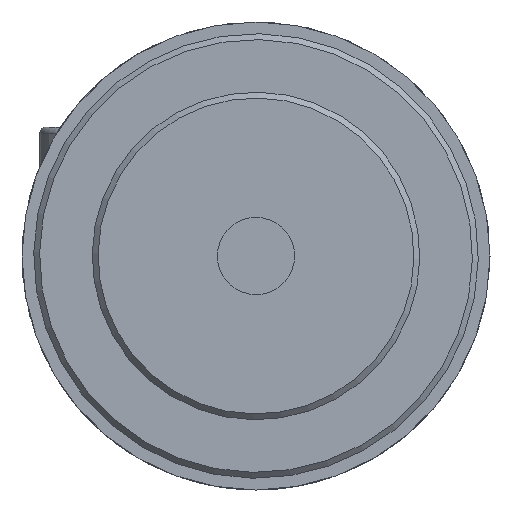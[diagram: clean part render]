
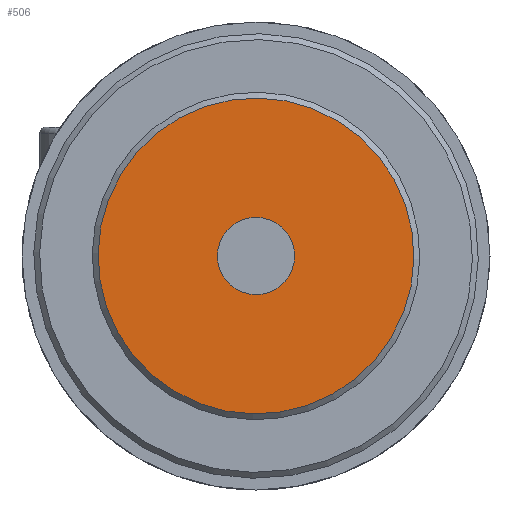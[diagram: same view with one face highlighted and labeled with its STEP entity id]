
A CAD part, left-side view. The second image highlights one B-rep face of the part: STEP entity #506.
In plain terms, the highlighted planar face has unit normal (-1, 0, 0) as drawn and (1, 0, 0) by its records, which use the part's own axes.
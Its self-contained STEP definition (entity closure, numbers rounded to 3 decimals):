
#506 = ADVANCED_FACE( '', ( #1107, #1108 ), #1109, .T. );
#1107 = FACE_OUTER_BOUND( '', #1878, .T. );
#1108 = FACE_BOUND( '', #1879, .T. );
#1109 = PLANE( '', #1880 );
#1878 = EDGE_LOOP( '', ( #2993 ) );
#1879 = EDGE_LOOP( '', ( #2994 ) );
#1880 = AXIS2_PLACEMENT_3D( '', #2995, #2996, #2997 );
#2993 = ORIENTED_EDGE( '', *, *, #4126, .T. );
#2994 = ORIENTED_EDGE( '', *, *, #4170, .T. );
#2995 = CARTESIAN_POINT( '', ( 18., 0., 7. ) );
#2996 = DIRECTION( '', ( 1., 0., 0. ) );
#2997 = DIRECTION( '', ( 0., 0., -1. ) );
#4126 = EDGE_CURVE( '', #4821, #4821, #4822, .T. );
#4170 = EDGE_CURVE( '', #4883, #4883, #4884, .T. );
#4821 = VERTEX_POINT( '', #5921 );
#4822 = CIRCLE( '', #5922, 6.75 );
#4883 = VERTEX_POINT( '', #5992 );
#4884 = CIRCLE( '', #5993, 1.65 );
#5921 = CARTESIAN_POINT( '', ( 18., 0., -6.75 ) );
#5922 = AXIS2_PLACEMENT_3D( '', #6893, #6894, #6895 );
#5992 = CARTESIAN_POINT( '', ( 18., 0., 1.65 ) );
#5993 = AXIS2_PLACEMENT_3D( '', #6972, #6973, #6974 );
#6893 = CARTESIAN_POINT( '', ( 18., 0., 0. ) );
#6894 = DIRECTION( '', ( 1., 0., 0. ) );
#6895 = DIRECTION( '', ( 0., 0., -1. ) );
#6972 = CARTESIAN_POINT( '', ( 18., 0., 0. ) );
#6973 = DIRECTION( '', ( -1., 0., 0. ) );
#6974 = DIRECTION( '', ( 0., 0., 1. ) );
